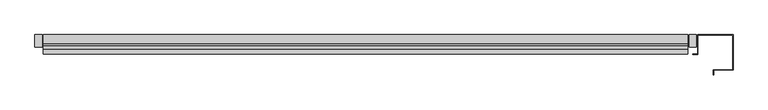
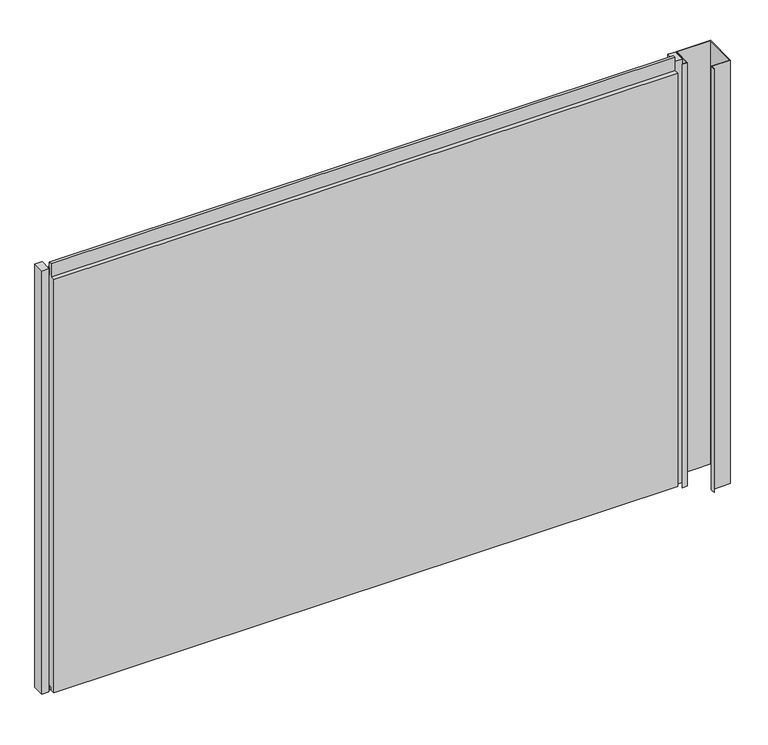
"""IFC4 building model written with IfcOpenShell, lengths in millimetres: plate geometry, Trimo_Qbiss Screen_Normal Panel-HORIZONTAL : HR - B-F."""

from ifc_helpers import new_model, si_unit, frame, origin, place, context, project, spatial, polyline, outline, extrude, source, transform, mapped, element, save


def plate_c9a1b884(model_context):
    return source(origin(), model_context, "Body", "SweptSolid", [
        extrude(outline(polyline([(-840.5, 67.8978162), (-859.5, 67.8978162), (-859.5, 100.0), (-840.5, 100.0), (-840.5, 67.8978162)])), frame((0.0, 0.0, -1.0), z_axis=(0.0, 0.0, 1.0), x_axis=(1.0, 0.0, 0.0)), (0.0, 0.0, 1.0), 1200.0),
        extrude(outline(polyline([(855.0, 67.8978162), (836.0, 67.8978162), (836.0, 100.0), (855.0, 100.0), (855.0, 67.8978162)])), frame((0.0, 0.0, -1.0), z_axis=(0.0, 0.0, 1.0), x_axis=(1.0, 0.0, 0.0)), (0.0, 0.0, 1.0), 1200.0),
        extrude(outline(polyline([(833.0, 76.0), (833.0, 71.0), (-837.5, 71.0), (-837.5, 76.0), (833.0, 76.0)])), frame((0.0, 0.0, 1178.0), z_axis=(0.0, 0.0, 1.0), x_axis=(1.0, 0.0, 0.0)), (0.0, 0.0, 1.0), 21.0),
        extrude(outline(polyline([(71.0, 1177.0), (100.0, 1177.0), (100.0, 0.0), (72.0, 0.0), (72.0, 15.5), (62.0, 15.5), (62.0, 7.0), (50.0, 7.0), (50.0, 1177.0), (63.0, 1177.0), (63.0, 1214.5), (71.0, 1214.5), (71.0, 1177.0)])), frame((-837.5, 0.0, 0.0), z_axis=(1.0, 0.0, 0.0), x_axis=(0.0, 1.0, 0.0)), (0.0, 0.0, 1.0), 1670.5),
        extrude(outline(polyline([(858.0, 50.0), (858.0, 100.0), (950.0, 100.0), (950.0, 8.0), (900.0, 8.0), (900.0, -4.5), (899.2, -4.5), (899.2, 8.8), (949.2, 8.8), (949.2, 99.2), (858.8, 99.2), (858.8, 49.1823429), (845.5, 49.1823429), (845.5, 50.0), (858.0, 50.0)])), frame((0.0, 0.0, -1.0), z_axis=(0.0, 0.0, 1.0), x_axis=(1.0, 0.0, 0.0)), (0.0, 0.0, 1.0), 1200.0),
    ])


if __name__ == "__main__":
    model = new_model("IFC4")
    model_context = context("Model", 3, world=origin())
    ifc_project = project(units=[si_unit("LENGTHUNIT", "METRE", prefix="MILLI")], contexts=[model_context])
    site = spatial("IfcSite", under=ifc_project)
    building = spatial("IfcBuilding", under=site)
    placement = place(None, origin())
    plate_shape = plate_c9a1b884(model_context)
    element("IfcPlate", 1, ObjectType="Trimo_Qbiss Screen_Normal Panel-HORIZONTAL : HR - B-F", at=placement, inside=building, context=model_context, shape_type="MappedRepresentation", body=[
        mapped(plate_shape, transform((0.0, 0.0, 0.0), x_axis=(1.0, 0.0, 0.0), y_axis=(0.0, 1.0, 0.0), z_axis=(0.0, 0.0, 1.0))),
    ])
    save(model, "model.ifc")
